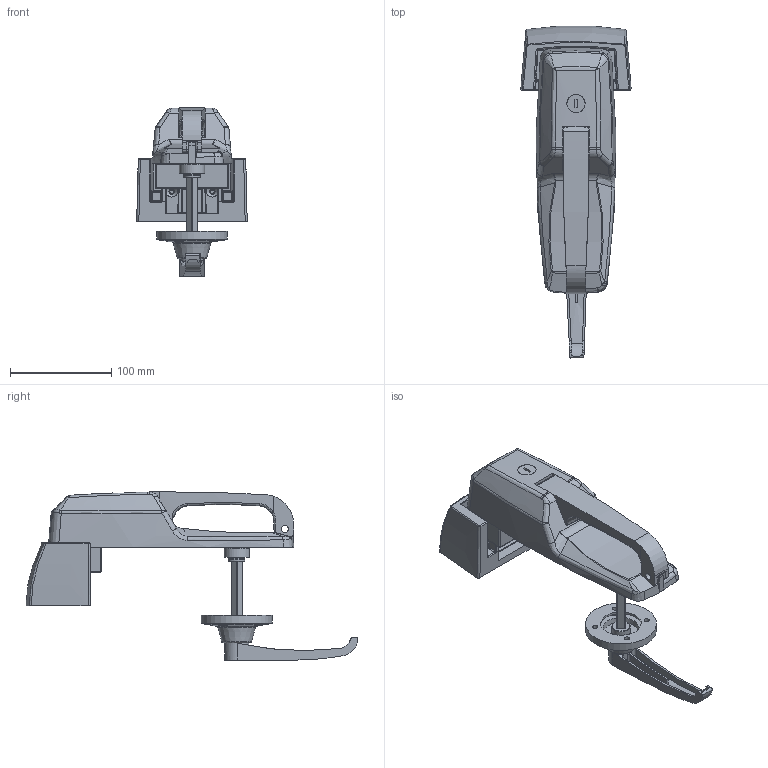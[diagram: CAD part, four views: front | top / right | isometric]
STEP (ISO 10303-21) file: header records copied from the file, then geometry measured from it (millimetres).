
FILE_DESCRIPTION(/* description */ (''),/* implementation_level */ '2;1');
FILE_NAME(/* name */ '\\Nas\db20\D-702\DR_D-702.stp',/* time_stamp */ '2018-03-09T18:17:39+09:00',/* author */ ('user'),/* organization */ (''),/* preprocessor_version */ 'ST-DEVELOPER v15.6',/* originating_system */ 'Autodesk Inventor 2015',/* authorisation */ '');
FILE_SCHEMA (('AUTOMOTIVE_DESIGN { 1 0 10303 214 3 1 1 }'));
Products named in the file (4): DR_D-702-BRAKET_PLATE; DR_D-702-HANDLE; DR_D-702-STRIKE; DR_D-702
Bounding box: 109.12 x 328.31 x 166.45 mm (x, y, z)
Volume: 502584.8 mm3; surface area: 263792 mm2
Topology: 7 solids, 73 shells, 2179 faces, 5437 edges, 3238 vertices
Faces by surface type: cylinder 691, plane 637, bspline 343, cone 215, torus 191, sphere 102
Full cylindrical faces by diameter (mm): 0.16 x1, 0.968 x1, 2.5 x1, 4.134 x2, 4.917 x2, 5 x96, 5.2 x16, 5.5 x4, 6 x2, 6.1 x3, 6.2 x6, 7 x3, 8.1 x3, 9 x2, 9.5 x4, 10 x1, 13 x1, 15.2 x1, 16 x4, 16.1 x1, 16.6 x1, 18 x4, 18.1 x1, 24 x1, 25 x1, 40 x1, 66 x1, 70 x1
Entity records: 102619 total; most frequent: CARTESIAN_POINT 53436, ORIENTED_EDGE 9768, DIRECTION 9594, EDGE_CURVE 4884, AXIS2_PLACEMENT_3D 3867, VERTEX_POINT 3113, EDGE_LOOP 2691, FACE_OUTER_BOUND 2179
